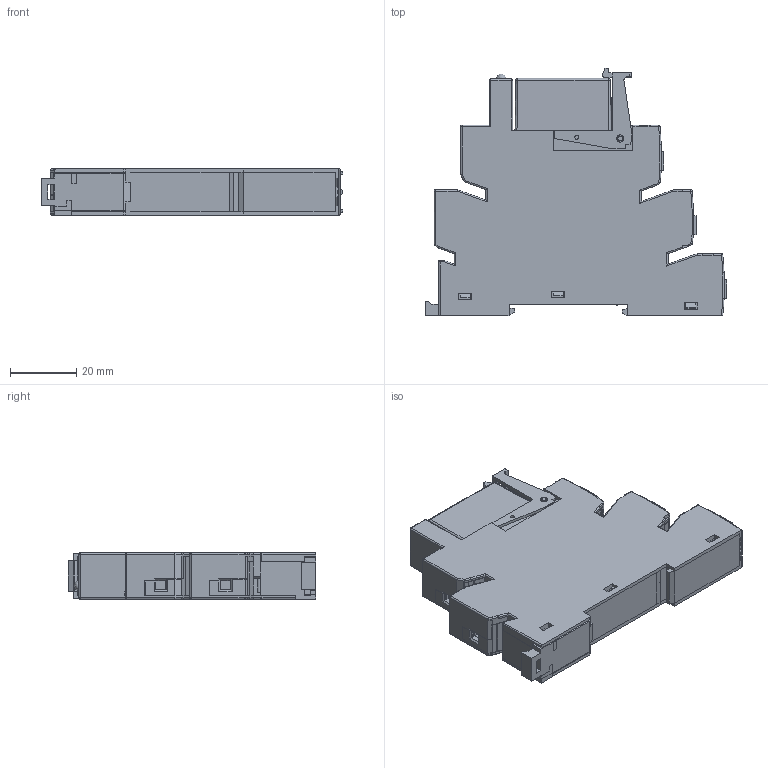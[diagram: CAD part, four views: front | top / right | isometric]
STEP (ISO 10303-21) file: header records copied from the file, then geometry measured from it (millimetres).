
FILE_DESCRIPTION(('STEP AP214'),'2;1');
FILE_NAME('3831---9302_with_4181.stp','2012-03-19T16:57:25',(''),(''),'2007.1.106','THINKDESIGN','');
FILE_SCHEMA(('AUTOMOTIVE_DESIGN'));
Length unit declared in the file: millimetre
Products named in the file (1): top
Bounding box: 91.12 x 74.9 x 14 mm (x, y, z)
Surface area: 25573.2 mm2 (no closed solid volume)
Topology: 0 solids, 0 shells, 1017 faces, 5933 edges, 5926 vertices
Faces by surface type: plane 865, cylinder 131, bspline 21
Full cylindrical faces by diameter (mm): 1.2 x2, 1.5 x2, 2.2 x2, 4 x8
Entity records: 51220 total; most frequent: CARTESIAN_POINT 15739, DIRECTION 7677, COMPOSITE_CURVE_SEGMENT 5926, TRIMMED_CURVE 5501, VECTOR 5319, LINE 5319, AXIS2_PLACEMENT_3D 1179, OUTER_BOUNDARY_CURVE 1017
